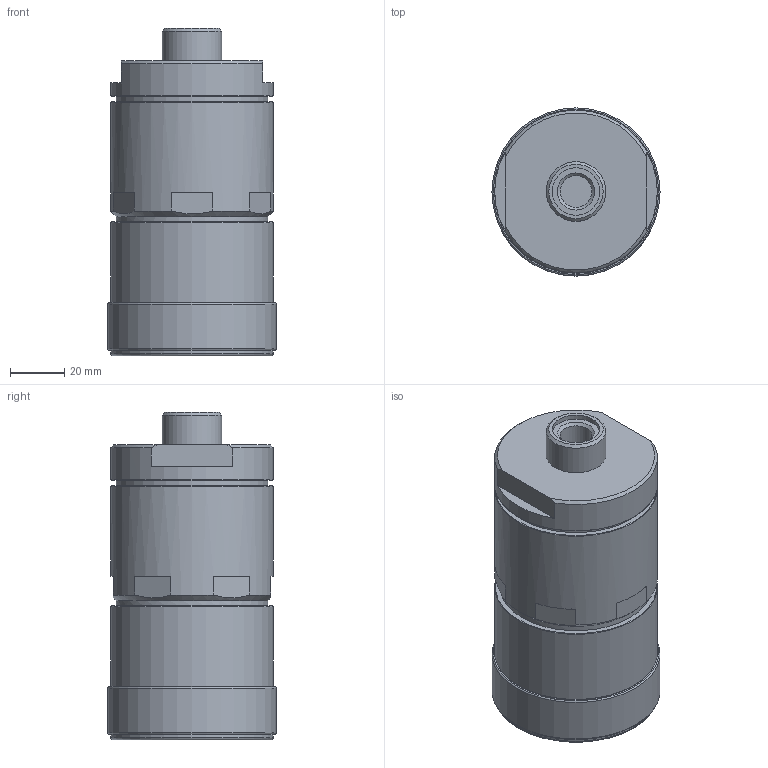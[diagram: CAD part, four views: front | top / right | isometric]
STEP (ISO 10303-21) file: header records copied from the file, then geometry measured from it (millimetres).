
FILE_DESCRIPTION(('STEP AP203'),'1');
FILE_NAME(').stp','2022-09-05T03:11:33',(' '),(' '),'Spatial InterOp 3D',' ',' ');
FILE_SCHEMA(('CONFIG_CONTROL_DESIGN'));
Length unit declared in the file: millimetre
Products named in the file (1): 1
Bounding box: 62 x 62 x 120.7 mm (x, y, z)
Volume: 174072.7 mm3; surface area: 41525 mm2
Topology: 1 solids, 1 shells, 55 faces, 116 edges, 73 vertices
Faces by surface type: plane 28, cylinder 12, cone 10, torus 5
Full cylindrical faces by diameter (mm): 11.7 x1, 17.5 x1, 22 x1, 40 x1, 41.5 x1, 56 x2, 60 x4, 62 x1
Entity records: 1416 total; most frequent: CARTESIAN_POINT 280, DIRECTION 242, ORIENTED_EDGE 176, AXIS2_PLACEMENT_3D 108, EDGE_LOOP 90, EDGE_CURVE 88, FACE_OUTER_BOUND 72, VERTEX_POINT 70
